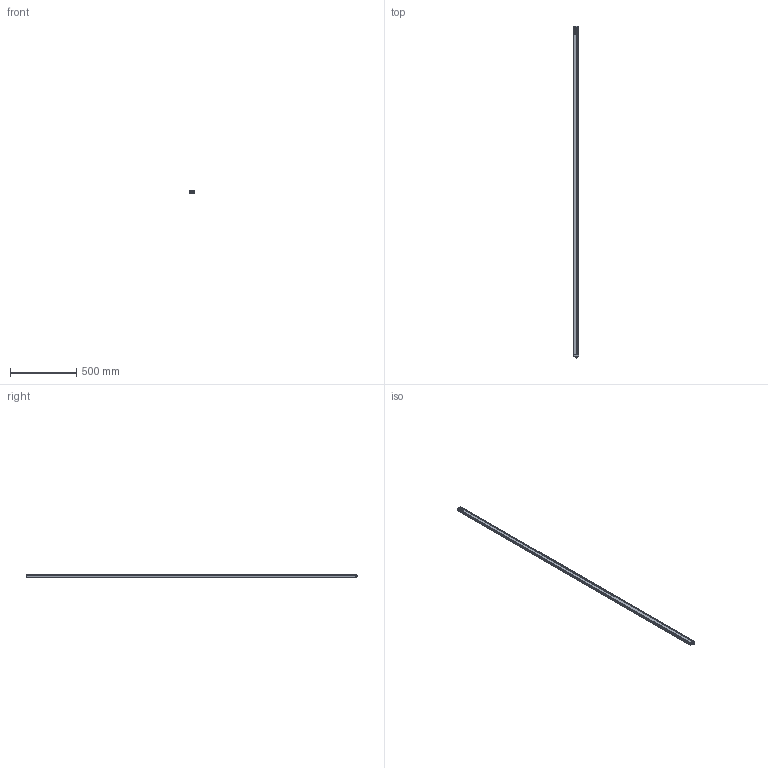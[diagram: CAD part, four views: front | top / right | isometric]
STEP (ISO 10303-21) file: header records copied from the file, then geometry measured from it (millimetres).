
FILE_DESCRIPTION(/* description */ (''),/* implementation_level */ '2;1');
FILE_NAME(/* name */ 'C:\Users\andre\SynologyDrive\Optoscan\Libreria Componenti\00 - Barriere\Barriera sorgente\Argo_2480_RX.stp',/* time_stamp */ '2021-04-22T12:29:51+02:00',/* author */ ('andre'),/* organization */ (''),/* preprocessor_version */ 'ST-DEVELOPER v18',/* originating_system */ 'Autodesk Inventor 2020',/* authorisation */ '');
FILE_SCHEMA (('AUTOMOTIVE_DESIGN { 1 0 10303 214 3 1 1 }'));
Length unit declared in the file: millimetre
Products named in the file (1): Argo_2480_RX
Bounding box: 40.5 x 2513.3 x 20.75 mm (x, y, z)
Volume: 493861 mm3; surface area: 656669.9 mm2
Topology: 1 solids, 1 shells, 692 faces, 1898 edges, 1217 vertices
Faces by surface type: plane 319, cylinder 195, bspline 94, torus 70, cone 8, sphere 6
Full cylindrical faces by diameter (mm): 1 x4, 2.459 x4, 2.5 x4, 3 x4, 3.5 x4, 5.5 x4, 8 x1, 10.5 x2, 11.75 x9, 15.7 x1, 17.5 x1
Entity records: 28165 total; most frequent: CARTESIAN_POINT 10195, ORIENTED_EDGE 3778, DIRECTION 3387, EDGE_CURVE 1889, VERTEX_POINT 1217, AXIS2_PLACEMENT_3D 1183, LINE 1021, VECTOR 1021
